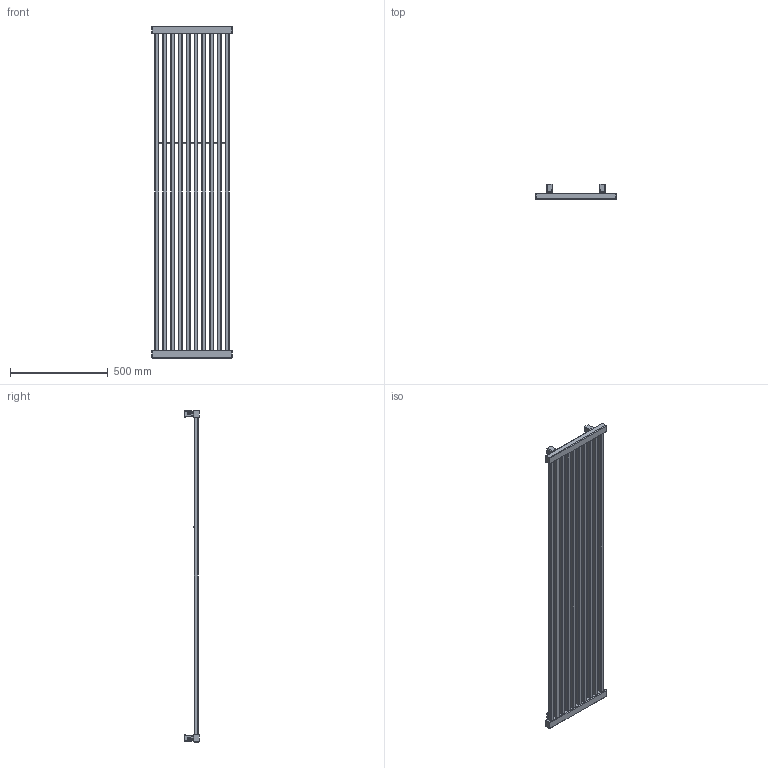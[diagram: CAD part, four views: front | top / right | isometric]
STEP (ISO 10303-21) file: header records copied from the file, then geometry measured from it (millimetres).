
FILE_DESCRIPTION((''),'2;1');
FILE_NAME('Z:\R\G\P\RGPH04 - Grzejnik Intra\Work\Inventor\Marketing\STEP\IN 17-41-ZX.stp','2012-07-25T15:18:22',('PioRo'),(''),'Autodesk Inventor 2012','Autodesk Inventor 2012','');
FILE_SCHEMA(('CONFIG_CONTROL_DESIGN'));
Length unit declared in the file: millimetre
Products named in the file (1): Część4
Bounding box: 410 x 74.5 x 1700 mm (x, y, z)
Volume: 170487.3 mm3; surface area: 1379811.8 mm2
Topology: 5 solids, 6 shells, 338 faces, 838 edges, 520 vertices
Faces by surface type: cylinder 136, plane 134, bspline 48, torus 20
Full cylindrical faces by diameter (mm): 5 x1, 10 x4, 18.631 x3
Entity records: 11598 total; most frequent: CARTESIAN_POINT 3281, ORIENTED_EDGE 1654, DIRECTION 1605, EDGE_CURVE 827, AXIS2_PLACEMENT_3D 583, VERTEX_POINT 519, VECTOR 439, LINE 439
